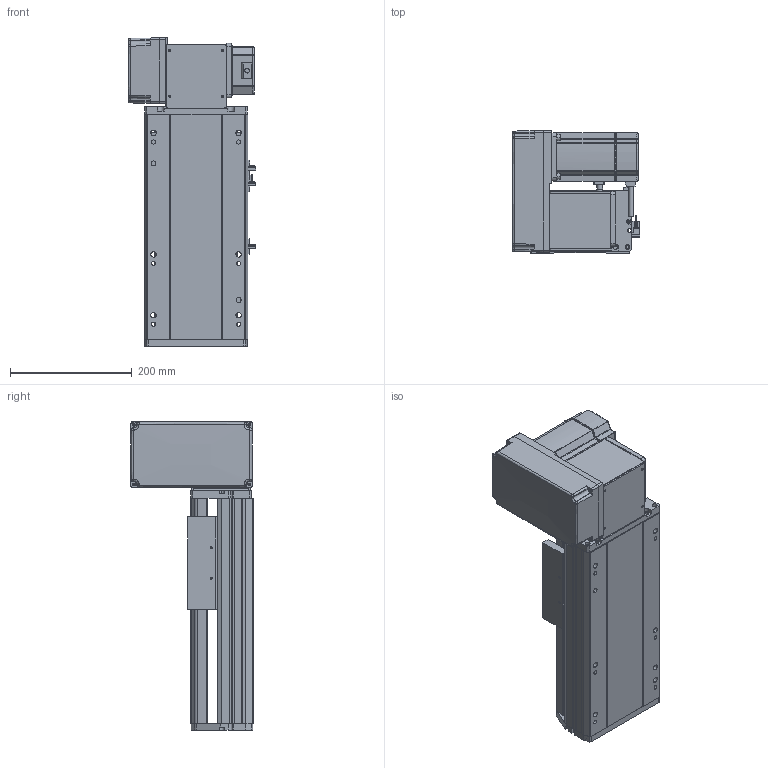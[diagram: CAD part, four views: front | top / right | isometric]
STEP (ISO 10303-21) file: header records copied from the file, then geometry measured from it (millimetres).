
FILE_DESCRIPTION (( 'STEP AP214' ), '1' );
FILE_NAME ('RTB17S-XX-100-LW-M75-C4.STEP', '2025-12-12T00:58:25', ( '' ), ( '' ), 'SwSTEP 2.0', 'SolidWorks 2018', '' );
FILE_SCHEMA (( 'AUTOMOTIVE_DESIGN' ));
Length unit declared in the file: millimetre
Products named in the file (15): RTH13-BL-012覜茼え俋离^RTB17S-賑釱_RTB17S-XX-XX-LW-M75-C4; RTB17S-L-014-T20-P75--々湍釱^RTB17S-LW-々湍釱蚾饜-750W_RTB17S-XX-XX-LW-M75-C4; RTB22S-GY-005P^RTB17S-LW-々湍釱蚾饜-750W_RTB17S-XX-XX-LW-M75-C4; RTB17S-L-001-耜醱啣^RTB17S-XX-XX-LW-M75-C4; 750W萇儂^RTB17S-XX-XX-LW-M75-C4; RTB22S-GY-017P^RTB17S-LW-々湍釱蚾饜-750W_RTB17S-XX-XX-LW-M75-C4; RTB22S-GY-018P^RTB17S-LW-々湍釱蚾饜-750W_RTB17S-XX-XX-LW-M75-C4; RTB17-R-011菁釱^RTB17S-XX-XX-LW-M75-C4; EE672^RTB17S-XX-XX-LW-M75-C4; RTB17S-L-004-賑釱^RTB17S-賑釱_RTB17S-XX-XX-LW-M75-C4; RTB17S-LW-々湍釱蚾饜-750W^RTB17S-XX-XX-LW-M75-C4; RTB17S-XX-100-LW-M75-C4; RTB22S-GY-008-M75--萇儂啣^RTB17S-LW-々湍釱蚾饜-750W_RTB17S-XX-XX-LW-M75-C4; RTB17S-L-007奻裔^RTB17S-XX-XX-LW-M75-C4; RTB17S-賑釱^RTB17S-XX-XX-LW-M75-C4
Assembly tree (17 placements, depth 3):
  RTB17S-XX-100-LW-M75-C4
    RTB17-R-011菁釱^RTB17S-XX-XX-LW-M75-C4
    EE672^RTB17S-XX-XX-LW-M75-C4  x3
    RTB17S-L-001-耜醱啣^RTB17S-XX-XX-LW-M75-C4
    RTB17S-賑釱^RTB17S-XX-XX-LW-M75-C4
      RTB17S-L-004-賑釱^RTB17S-賑釱_RTB17S-XX-XX-LW-M75-C4
      RTH13-BL-012覜茼え俋离^RTB17S-賑釱_RTB17S-XX-XX-LW-M75-C4
    RTB17S-L-007奻裔^RTB17S-XX-XX-LW-M75-C4
    750W萇儂^RTB17S-XX-XX-LW-M75-C4
    RTB17S-LW-々湍釱蚾饜-750W^RTB17S-XX-XX-LW-M75-C4
      RTB17S-L-014-T20-P75--々湍釱^RTB17S-LW-々湍釱蚾饜-750W_RTB17S-XX-XX-LW-M75-C4
      RTB22S-GY-005P^RTB17S-LW-々湍釱蚾饜-750W_RTB17S-XX-XX-LW-M75-C4
      RTB22S-GY-017P^RTB17S-LW-々湍釱蚾饜-750W_RTB17S-XX-XX-LW-M75-C4  x2
      RTB22S-GY-008-M75--萇儂啣^RTB17S-LW-々湍釱蚾饜-750W_RTB17S-XX-XX-LW-M75-C4
      RTB22S-GY-018P^RTB17S-LW-々湍釱蚾饜-750W_RTB17S-XX-XX-LW-M75-C4
Bounding box: 210.4 x 201.5 x 507.5 mm (x, y, z)
Volume: 6572475 mm3; surface area: 966322.1 mm2
Topology: 17 solids, 17 shells, 2025 faces, 5566 edges, 3590 vertices
Faces by surface type: plane 962, cylinder 647, bspline 294, cone 110, sphere 8, torus 4
Entity records: 55030 total; most frequent: CARTESIAN_POINT 16030, ORIENTED_EDGE 7976, DIRECTION 7502, EDGE_CURVE 3988, AXIS2_PLACEMENT_3D 2610, VERTEX_POINT 2594, VECTOR 2282, LINE 2282
